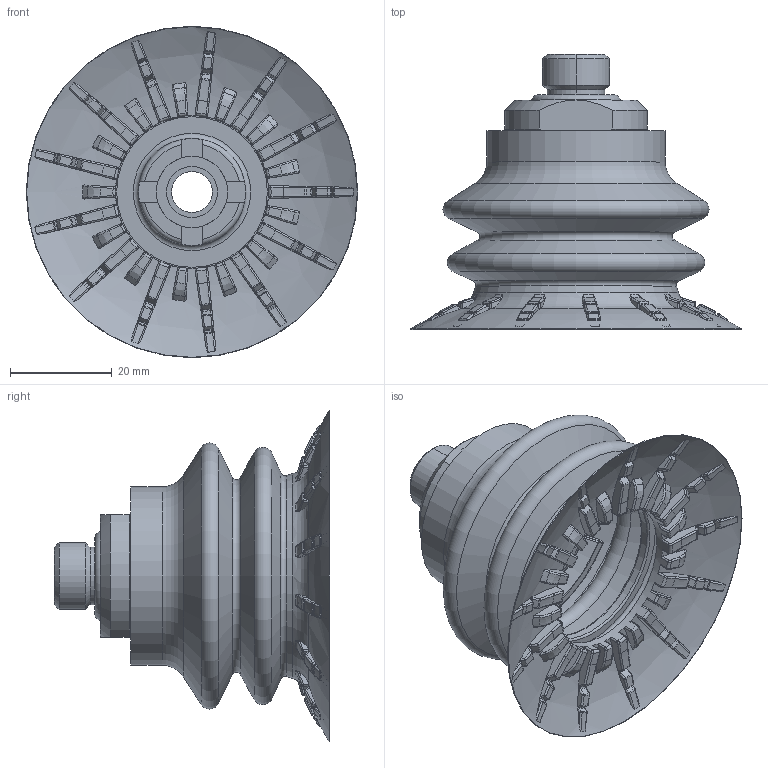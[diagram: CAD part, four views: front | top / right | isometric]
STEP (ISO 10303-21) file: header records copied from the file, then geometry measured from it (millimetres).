
FILE_DESCRIPTION (( 'STEP AP214' ), '1' );
FILE_NAME ('MB65P-3060T-G14MS.STEP', '2026-05-27T14:06:57', ( '' ), ( '' ), 'SwSTEP 2.0', 'SolidWorks 2025', '' );
FILE_SCHEMA (( 'AUTOMOTIVE_DESIGN' ));
Length unit declared in the file: inch
Products named in the file (3): MB65P-3060T; 402.015; MB65P-3060T-G14MS
Assembly tree (2 placements, depth 2):
  MB65P-3060T-G14MS
    402.015
    MB65P-3060T
Bounding box: 65 x 54 x 65 mm (x, y, z)
Volume: 26867.7 mm3; surface area: 24722.6 mm2
Topology: 3 solids, 3 shells, 2005 faces, 4713 edges, 2723 vertices
Faces by surface type: bspline 812, plane 303, cylinder 268, torus 253, sphere 236, cone 133
Full cylindrical faces by diameter (mm): 10.5 x1, 12.5 x1, 14 x1, 21 x1, 30 x1, 31 x1, 35 x1, 36 x1
Entity records: 71644 total; most frequent: CARTESIAN_POINT 32507, ORIENTED_EDGE 9266, DIRECTION 6760, EDGE_CURVE 4633, AXIS2_PLACEMENT_3D 3124, VERTEX_POINT 2710, B_SPLINE_CURVE_WITH_KNOTS 2143, EDGE_LOOP 2085
